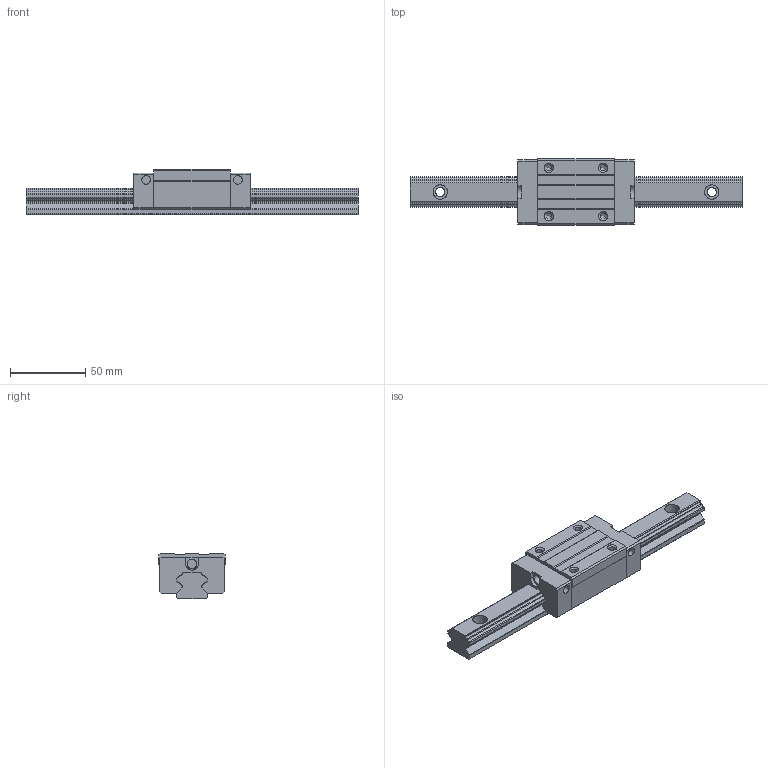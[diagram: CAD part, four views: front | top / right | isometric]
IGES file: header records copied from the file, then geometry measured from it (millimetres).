
Start section: START RECORD GO HERE.
Global section: file name: SBG20_SL.igs; native system: IBM CATIA IGES - CATIA Version 5 Release 16 ; preprocessor: CATIA Version 5 Release 16 ; author: mycom; organization: RD03; date: 20070228.135607; units: millimetre
Bounding box: 220 x 44 x 30 mm (x, y, z)
Surface area: 38298.1 mm2 (no closed solid volume)
Topology: 0 solids, 0 shells, 256 faces, 1400 edges, 1392 vertices
Faces by surface type: revolution 138, plane 118
